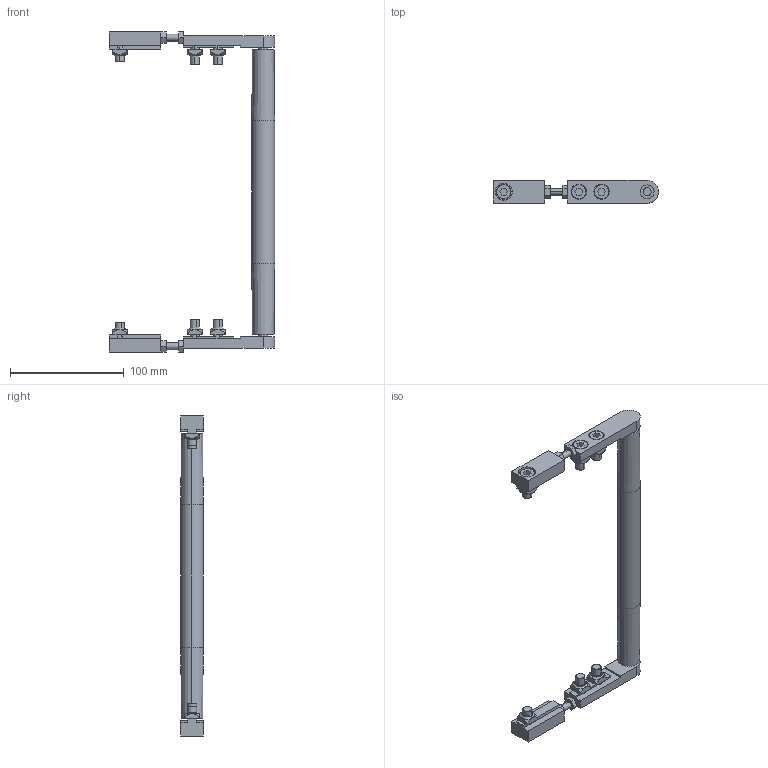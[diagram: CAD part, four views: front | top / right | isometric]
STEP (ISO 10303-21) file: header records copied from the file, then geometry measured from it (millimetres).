
FILE_DESCRIPTION (( 'STEP AP214' ), '1' );
FILE_NAME ('084.020.KI.230.STEP', '2021-02-05T13:55:35', ( '' ), ( '' ), 'SwSTEP 2.0', 'SolidWorks 2018', '' );
FILE_SCHEMA (( 'AUTOMOTIVE_DESIGN' ));
Length unit declared in the file: millimetre
Products named in the file (10): 084.020.KI.230; 084.302.000 DADI ALUSIC 13x13-1_084.302.004; 084.800.008; 084.301.000 VITI ALUSIC_084.301.003; 084.800.033; 084.800.002; Circlip DIN 471 - 8 x 0.8_Circlip DIN 471 - 8 x 0.8; 084.800.007; 084.802.008; 084.800.012
Assembly tree (27 placements, depth 2):
  084.020.KI.230
    084.802.008  x2
    084.301.000 VITI ALUSIC_084.301.003  x6
    084.302.000 DADI ALUSIC 13x13-1_084.302.004  x6
    084.800.033
    084.800.012  x4
    084.800.008  x2
    084.800.002  x2
    084.800.007  x2
    Circlip DIN 471 - 8 x 0.8_Circlip DIN 471 - 8 x 0.8  x2
Bounding box: 145 x 20 x 281 mm (x, y, z)
Volume: 107751 mm3; surface area: 68565.1 mm2
Topology: 31 solids, 31 shells, 664 faces, 1564 edges, 998 vertices
Faces by surface type: plane 262, cylinder 210, torus 112, cone 56, bspline 24
Entity records: 7452 total; most frequent: CARTESIAN_POINT 1561, DIRECTION 1208, ORIENTED_EDGE 1048, EDGE_CURVE 524, AXIS2_PLACEMENT_3D 474, VERTEX_POINT 337, VECTOR 260, LINE 260
